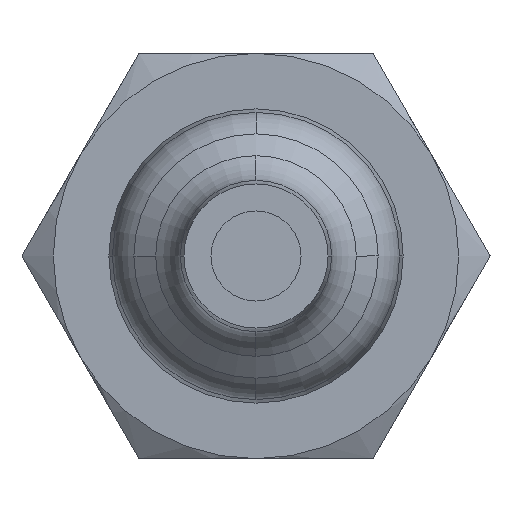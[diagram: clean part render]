
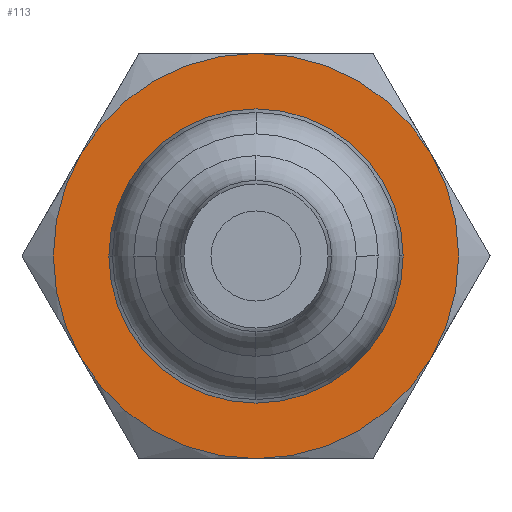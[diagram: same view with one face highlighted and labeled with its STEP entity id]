
A CAD part, left-side view. The second image highlights one B-rep face of the part: STEP entity #113.
In plain terms, the highlighted planar face has unit normal (-1, 0, 0).
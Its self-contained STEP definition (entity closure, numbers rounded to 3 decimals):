
#113 = ADVANCED_FACE( '', ( #233, #234 ), #235, .F. );
#233 = FACE_OUTER_BOUND( '', #402, .T. );
#234 = FACE_BOUND( '', #403, .T. );
#235 = PLANE( '', #404 );
#402 = EDGE_LOOP( '', ( #788, #789 ) );
#403 = EDGE_LOOP( '', ( #790, #791, #792, #793, #794, #795, #796, #797, #798, #799, #800, #801 ) );
#404 = AXIS2_PLACEMENT_3D( '', #802, #803, #804 );
#788 = ORIENTED_EDGE( '', *, *, #1240, .F. );
#789 = ORIENTED_EDGE( '', *, *, #1277, .F. );
#790 = ORIENTED_EDGE( '', *, *, #1276, .T. );
#791 = ORIENTED_EDGE( '', *, *, #1273, .T. );
#792 = ORIENTED_EDGE( '', *, *, #1270, .T. );
#793 = ORIENTED_EDGE( '', *, *, #1267, .T. );
#794 = ORIENTED_EDGE( '', *, *, #1264, .T. );
#795 = ORIENTED_EDGE( '', *, *, #1261, .T. );
#796 = ORIENTED_EDGE( '', *, *, #1258, .T. );
#797 = ORIENTED_EDGE( '', *, *, #1255, .T. );
#798 = ORIENTED_EDGE( '', *, *, #1252, .T. );
#799 = ORIENTED_EDGE( '', *, *, #1249, .T. );
#800 = ORIENTED_EDGE( '', *, *, #1246, .T. );
#801 = ORIENTED_EDGE( '', *, *, #1243, .T. );
#802 = CARTESIAN_POINT( '', ( -60., 0., 0. ) );
#803 = DIRECTION( '', ( 1., 0., 0. ) );
#804 = DIRECTION( '', ( 0., 0., -1. ) );
#1240 = EDGE_CURVE( '', #1523, #1512, #1525, .T. );
#1243 = EDGE_CURVE( '', #1531, #1529, #1532, .T. );
#1246 = EDGE_CURVE( '', #1536, #1531, #1537, .T. );
#1249 = EDGE_CURVE( '', #1541, #1536, #1542, .T. );
#1252 = EDGE_CURVE( '', #1546, #1541, #1547, .T. );
#1255 = EDGE_CURVE( '', #1551, #1546, #1552, .T. );
#1258 = EDGE_CURVE( '', #1556, #1551, #1557, .T. );
#1261 = EDGE_CURVE( '', #1561, #1556, #1562, .T. );
#1264 = EDGE_CURVE( '', #1566, #1561, #1567, .T. );
#1267 = EDGE_CURVE( '', #1571, #1566, #1572, .T. );
#1270 = EDGE_CURVE( '', #1576, #1571, #1577, .T. );
#1273 = EDGE_CURVE( '', #1581, #1576, #1582, .T. );
#1276 = EDGE_CURVE( '', #1529, #1581, #1585, .T. );
#1277 = EDGE_CURVE( '', #1512, #1523, #1586, .T. );
#1512 = VERTEX_POINT( '', #1899 );
#1523 = VERTEX_POINT( '', #1938 );
#1525 = CIRCLE( '', #1941, 13.499 );
#1529 = VERTEX_POINT( '', #1945 );
#1531 = VERTEX_POINT( '', #1948 );
#1532 = CIRCLE( '', #1949, 8. );
#1536 = VERTEX_POINT( '', #1955 );
#1537 = LINE( '', #1956, #1957 );
#1541 = VERTEX_POINT( '', #1962 );
#1542 = CIRCLE( '', #1963, 8. );
#1546 = VERTEX_POINT( '', #1969 );
#1547 = LINE( '', #1970, #1971 );
#1551 = VERTEX_POINT( '', #1976 );
#1552 = CIRCLE( '', #1977, 8. );
#1556 = VERTEX_POINT( '', #1983 );
#1557 = LINE( '', #1984, #1985 );
#1561 = VERTEX_POINT( '', #1990 );
#1562 = CIRCLE( '', #1991, 8. );
#1566 = VERTEX_POINT( '', #1997 );
#1567 = LINE( '', #1998, #1999 );
#1571 = VERTEX_POINT( '', #2004 );
#1572 = CIRCLE( '', #2005, 8. );
#1576 = VERTEX_POINT( '', #2011 );
#1577 = LINE( '', #2012, #2013 );
#1581 = VERTEX_POINT( '', #2018 );
#1582 = CIRCLE( '', #2019, 8. );
#1585 = LINE( '', #2024, #2025 );
#1586 = CIRCLE( '', #2026, 13.499 );
#1899 = CARTESIAN_POINT( '', ( -60., 13.499, 0. ) );
#1938 = CARTESIAN_POINT( '', ( -60., -13.499, 0. ) );
#1941 = AXIS2_PLACEMENT_3D( '', #2381, #2382, #2383 );
#1945 = CARTESIAN_POINT( '', ( -60., 6.854, 4.126 ) );
#1948 = CARTESIAN_POINT( '', ( -60., 7., 3.873 ) );
#1949 = AXIS2_PLACEMENT_3D( '', #2388, #2389, #2390 );
#1955 = CARTESIAN_POINT( '', ( -60., 7., -3.873 ) );
#1956 = CARTESIAN_POINT( '', ( -60., 7., -3.873 ) );
#1957 = VECTOR( '', #2393, 1. );
#1962 = CARTESIAN_POINT( '', ( -60., 6.854, -4.126 ) );
#1963 = AXIS2_PLACEMENT_3D( '', #2398, #2399, #2400 );
#1969 = CARTESIAN_POINT( '', ( -60., 0.146, -7.999 ) );
#1970 = CARTESIAN_POINT( '', ( -60., 0.146, -7.999 ) );
#1971 = VECTOR( '', #2403, 1. );
#1976 = CARTESIAN_POINT( '', ( -60., -0.146, -7.999 ) );
#1977 = AXIS2_PLACEMENT_3D( '', #2408, #2409, #2410 );
#1983 = CARTESIAN_POINT( '', ( -60., -6.854, -4.126 ) );
#1984 = CARTESIAN_POINT( '', ( -60., -6.854, -4.126 ) );
#1985 = VECTOR( '', #2413, 1. );
#1990 = CARTESIAN_POINT( '', ( -60., -7., -3.873 ) );
#1991 = AXIS2_PLACEMENT_3D( '', #2418, #2419, #2420 );
#1997 = CARTESIAN_POINT( '', ( -60., -7., 3.873 ) );
#1998 = CARTESIAN_POINT( '', ( -60., -7., 3.873 ) );
#1999 = VECTOR( '', #2423, 1. );
#2004 = CARTESIAN_POINT( '', ( -60., -6.854, 4.126 ) );
#2005 = AXIS2_PLACEMENT_3D( '', #2428, #2429, #2430 );
#2011 = CARTESIAN_POINT( '', ( -60., -0.146, 7.999 ) );
#2012 = CARTESIAN_POINT( '', ( -60., -0.146, 7.999 ) );
#2013 = VECTOR( '', #2433, 1. );
#2018 = CARTESIAN_POINT( '', ( -60., 0.146, 7.999 ) );
#2019 = AXIS2_PLACEMENT_3D( '', #2438, #2439, #2440 );
#2024 = CARTESIAN_POINT( '', ( -60., 6.854, 4.126 ) );
#2025 = VECTOR( '', #2443, 1. );
#2026 = AXIS2_PLACEMENT_3D( '', #2444, #2445, #2446 );
#2381 = CARTESIAN_POINT( '', ( -60., 0., 0. ) );
#2382 = DIRECTION( '', ( 1., 0., 0. ) );
#2383 = DIRECTION( '', ( 0., 1., 0. ) );
#2388 = CARTESIAN_POINT( '', ( -60., 0., 0. ) );
#2389 = DIRECTION( '', ( 1., 0., 0. ) );
#2390 = DIRECTION( '', ( 0., 0.875, 0.484 ) );
#2393 = DIRECTION( '', ( 0., 0., 1. ) );
#2398 = CARTESIAN_POINT( '', ( -60., 0., 0. ) );
#2399 = DIRECTION( '', ( 1., 0., 0. ) );
#2400 = DIRECTION( '', ( 0., 0.857, -0.516 ) );
#2403 = DIRECTION( '', ( 0., 0.866, 0.5 ) );
#2408 = CARTESIAN_POINT( '', ( -60., 0., 0. ) );
#2409 = DIRECTION( '', ( 1., 0., 0. ) );
#2410 = DIRECTION( '', ( 0., -0.018, -1. ) );
#2413 = DIRECTION( '', ( 0., 0.866, -0.5 ) );
#2418 = CARTESIAN_POINT( '', ( -60., 0., 0. ) );
#2419 = DIRECTION( '', ( 1., 0., 0. ) );
#2420 = DIRECTION( '', ( 0., -0.875, -0.484 ) );
#2423 = DIRECTION( '', ( 0., 0., -1. ) );
#2428 = CARTESIAN_POINT( '', ( -60., 0., 0. ) );
#2429 = DIRECTION( '', ( 1., 0., 0. ) );
#2430 = DIRECTION( '', ( 0., -0.857, 0.516 ) );
#2433 = DIRECTION( '', ( 0., -0.866, -0.5 ) );
#2438 = CARTESIAN_POINT( '', ( -60., 0., 0. ) );
#2439 = DIRECTION( '', ( 1., 0., 0. ) );
#2440 = DIRECTION( '', ( 0., 0.018, 1. ) );
#2443 = DIRECTION( '', ( 0., -0.866, 0.5 ) );
#2444 = CARTESIAN_POINT( '', ( -60., 0., 0. ) );
#2445 = DIRECTION( '', ( 1., 0., 0. ) );
#2446 = DIRECTION( '', ( 0., 1., 0. ) );
